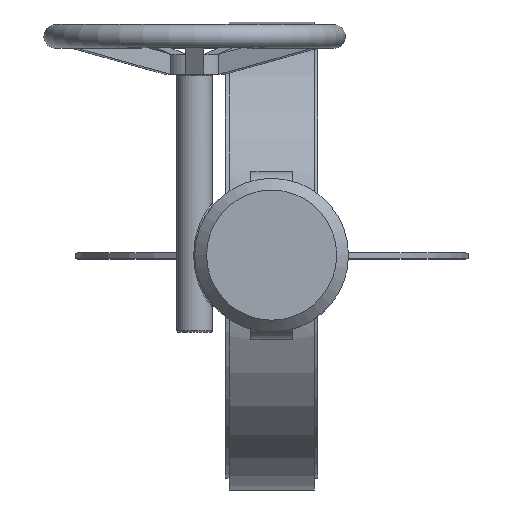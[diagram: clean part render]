
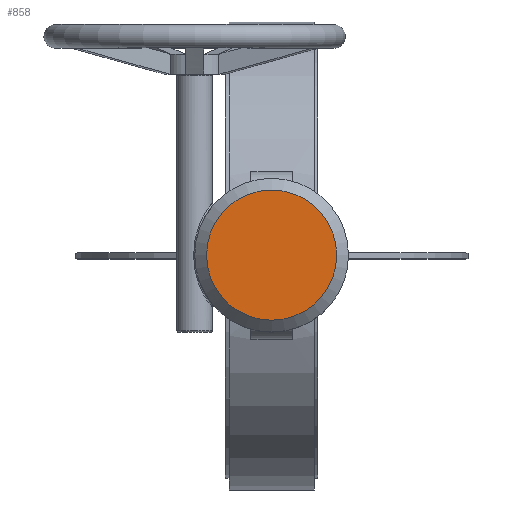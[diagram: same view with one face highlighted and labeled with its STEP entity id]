
A CAD part, top view. The second image highlights one B-rep face of the part: STEP entity #858.
In plain terms, the highlighted planar face has unit normal (0, 0, 1).
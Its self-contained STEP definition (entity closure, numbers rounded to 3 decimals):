
#858=ADVANCED_FACE('',(#2647),#2649,.T.);
#2647=FACE_BOUND('',#2648,.T.);
#2648=EDGE_LOOP('',(#3391));
#2649=PLANE('',#2650);
#2650=AXIS2_PLACEMENT_3D('',#2651,#2652,#2653);
#2651=CARTESIAN_POINT('',(0.,0.,407.));
#2652=DIRECTION('',(0.,0.,1.));
#2653=DIRECTION('',(-1.,0.,0.));
#3391=ORIENTED_EDGE('',*,*,#3759,.T.);
#3759=EDGE_CURVE('',#4173,#4173,#4174,.T.);
#4173=VERTEX_POINT('',#5942);
#4174=CIRCLE('',#5943,55.);
#5942=CARTESIAN_POINT('',(-55.,0.,407.));
#5943=AXIS2_PLACEMENT_3D('',#5944,#5945,#5946);
#5944=CARTESIAN_POINT('',(0.,0.,407.));
#5945=DIRECTION('',(0.,0.,1.));
#5946=DIRECTION('',(-1.,0.,0.));
